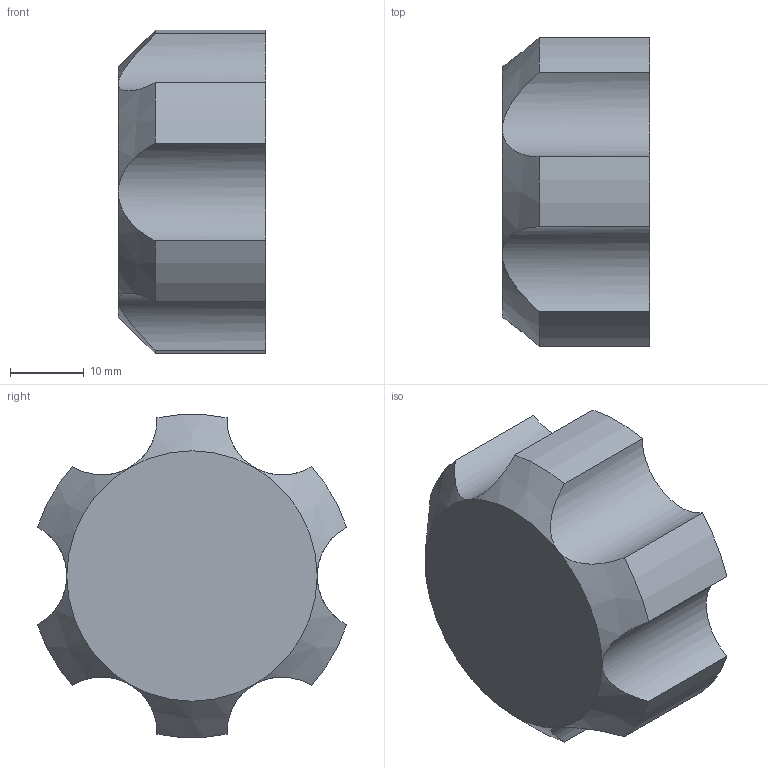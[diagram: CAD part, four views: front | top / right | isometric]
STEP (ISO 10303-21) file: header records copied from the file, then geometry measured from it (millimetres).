
FILE_DESCRIPTION( ( 'Description' ), '1' );
FILE_NAME( 'C:/Documents and Settings/cwalker1370/My Documents/3D Printer/Sprinkler/Hose Fitting Solid v2.stp', 'Time Stamp', ( 'Author' ), ( 'Organization' ), 'PSStep 10.0', 'Program Name', ' ' );
FILE_SCHEMA( ( 'automotive_design' ) );
Length unit declared in the file: millimetre
Products named in the file (1): 1
Bounding box: 20 x 41.96 x 43.88 mm (x, y, z)
Surface area: 6307.9 mm2 (no closed solid volume)
Topology: 0 solids, 33 shells, 35 faces, 156 edges, 152 vertices
Faces by surface type: cylinder 15, bspline 9, cone 6, plane 5
Full cylindrical faces by diameter (mm): 28 x3
Entity records: 7181 total; most frequent: CARTESIAN_POINT 5891, DIRECTION 180, ORIENTED_EDGE 148, EDGE_CURVE 148, VERTEX_POINT 148, AXIS2_PLACEMENT_3D 77, B_SPLINE_CURVE_WITH_KNOTS 66, CIRCLE 52
